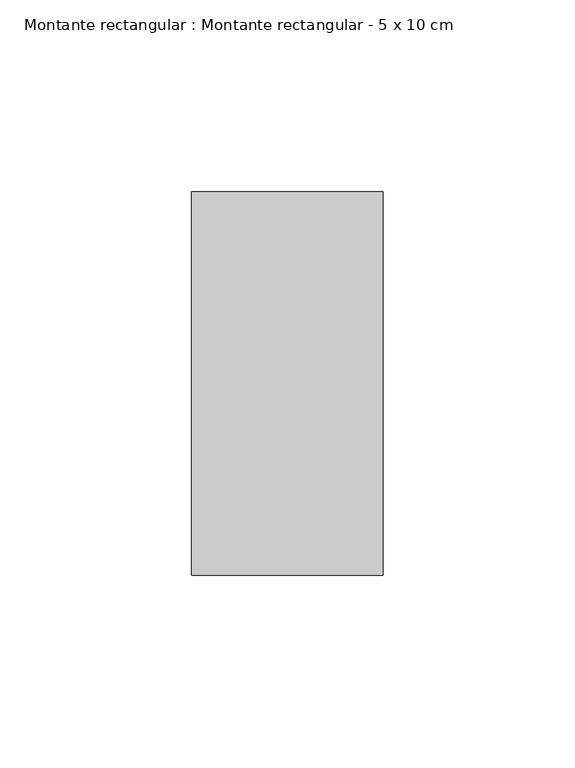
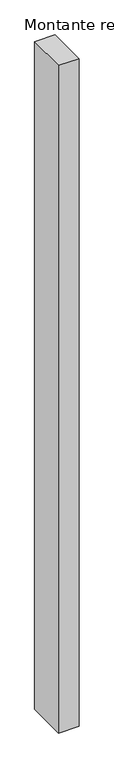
"""IFC4 building model written with IfcOpenShell, lengths in millimetres: member geometry, Montante rectangular : Montante rectangular - 5 x 10 cm."""

import ifcopenshell
import ifcopenshell.guid

model = None  # the IFC model being written
_history = None  # IfcOwnerHistory: only IFC2X3 demands one
_inside = {}  # id of a spatial element -> (the spatial element, [elements in it])
_under = {}  # id of a project, library or spatial element -> (it, [spatial elements below it])
_declared = {}  # id of a project -> (the project, [libraries it declares])
_typed = {}  # id of a type object -> (the type object, [elements of that type])
_made_of = {}  # id of a material, layer set ... -> (it, [elements and type objects made of it])


def new_model(schema):
    """Start an empty IFC model of exactly this schema.

    Asked for "IFC4X3", IfcOpenShell would pick the latest addendum, in which some entities
    have other attributes; the version numbers below select the first issue.
    IFC2X3 requires an IfcOwnerHistory on every rooted entity: one is made here for all.
    """
    global model, _history
    if schema == "IFC4X3":
        model = ifcopenshell.file(schema_version=(4, 3, 0, 0))
    else:
        model = ifcopenshell.file(schema=schema)
    _inside.clear()
    _under.clear()
    _declared.clear()
    _typed.clear()
    _made_of.clear()
    _history = None
    if model.schema == "IFC2X3":
        org = make("IfcOrganization", Name="unknown")
        user = make(
            "IfcPersonAndOrganization",
            ThePerson=make("IfcPerson", FamilyName="unknown"),
            TheOrganization=org,
        )
        app = make(
            "IfcApplication",
            ApplicationDeveloper=org,
            Version="unknown",
            ApplicationFullName="unknown",
            ApplicationIdentifier="unknown",
        )
        _history = make(
            "IfcOwnerHistory",
            OwningUser=user,
            OwningApplication=app,
            ChangeAction="ADDED",
            CreationDate=0,
        )
    return model


def make(cls, **values):
    """One entity of the class cls with the attributes given. An attribute that is None is left unset."""
    return model.create_entity(
        cls, **{name: value for name, value in values.items() if value is not None}
    )


def rooted(cls, **values):
    """An entity with a GlobalId (a new one), such as an element, a storey or a relation."""
    return make(cls, GlobalId=ifcopenshell.guid.new(), OwnerHistory=_history, **values)


def si_unit(unit_type, name, prefix=None):
    """IfcSIUnit, for example si_unit("LENGTHUNIT", "METRE", prefix="MILLI")."""
    return make("IfcSIUnit", UnitType=unit_type, Prefix=prefix, Name=name)


def assignment(units):
    """IfcUnitAssignment: the units of a project."""
    return None if units is None else make("IfcUnitAssignment", Units=units)


def point(xyz):
    """IfcCartesianPoint."""
    return None if xyz is None else make("IfcCartesianPoint", Coordinates=xyz)


def direction(xyz):
    """IfcDirection."""
    return None if xyz is None else make("IfcDirection", DirectionRatios=xyz)


def frame(location, z_axis=None, x_axis=None):
    """IfcAxis2Placement3D, a coordinate frame: its origin and axes. An axis left out is left unset."""
    return make(
        "IfcAxis2Placement3D",
        Location=point(location),
        Axis=direction(z_axis),
        RefDirection=direction(x_axis),
    )


def origin():
    """The frame at (0, 0, 0) with its axes left unset."""
    return frame((0.0, 0.0, 0.0))


def place(relative_to, where):
    """IfcLocalPlacement: puts the frame where relative to a parent placement (None: the world)."""
    return make(
        "IfcLocalPlacement", PlacementRelTo=relative_to, RelativePlacement=where
    )


def context(
    kind, dimensions, precision=None, world=None, true_north=None, identifier=None
):
    """IfcGeometricRepresentationContext, for example the 3D "Model" context."""
    return make(
        "IfcGeometricRepresentationContext",
        ContextIdentifier=identifier,
        ContextType=kind,
        CoordinateSpaceDimension=dimensions,
        Precision=precision,
        WorldCoordinateSystem=world,
        TrueNorth=true_north,
    )


def project(units=None, contexts=None):
    """IfcProject with its units and contexts."""
    return rooted(
        "IfcProject",
        Name="project",
        RepresentationContexts=contexts,
        UnitsInContext=assignment(units),
    )


def spatial(cls, under=None, at=None, **own):
    """A site, building, storey or space (cls), placed at a placement, below another one or the project."""
    s = rooted(cls, ObjectPlacement=at, **own)
    if under is not None:
        _under.setdefault(under.id(), (under, []))[1].append(s)
    return s


def polyline(points):
    """IfcPolyline through the points."""
    return make("IfcPolyline", Points=[point(p) for p in points])


def outline(outer, holes=None, kind="AREA"):
    """IfcArbitraryClosedProfileDef: a profile drawn as a closed curve; with holes, ...WithVoids."""
    if holes is None:
        return make("IfcArbitraryClosedProfileDef", ProfileType=kind, OuterCurve=outer)
    return make(
        "IfcArbitraryProfileDefWithVoids",
        ProfileType=kind,
        OuterCurve=outer,
        InnerCurves=holes,
    )


def extrude(swept, where, along, depth):
    """IfcExtrudedAreaSolid: the profile swept, set in the frame where, extruded along a direction by depth."""
    return make(
        "IfcExtrudedAreaSolid",
        SweptArea=swept,
        Position=where,
        ExtrudedDirection=direction(along),
        Depth=depth,
    )


def shape(context_of_items, identifier, shape_type, items):
    """IfcShapeRepresentation: the items that make up one representation, for example the "Body"."""
    return make(
        "IfcShapeRepresentation",
        ContextOfItems=context_of_items,
        RepresentationIdentifier=identifier,
        RepresentationType=shape_type,
        Items=items,
    )


def source(mapping_origin, context_of_items, identifier, shape_type, items):
    """IfcRepresentationMap: a shape defined once, which mapped items show again and again."""
    return make(
        "IfcRepresentationMap",
        MappingOrigin=mapping_origin,
        MappedRepresentation=shape(context_of_items, identifier, shape_type, items),
    )


def transform(
    local_origin,
    x_axis=None,
    y_axis=None,
    z_axis=None,
    scale=None,
    scale2=None,
    scale3=None,
    uniform=True,
):
    """IfcCartesianTransformationOperator3D, or its non-uniform kind. x_axis, y_axis, z_axis: its Axis1, 2, 3."""
    if uniform:
        return make(
            "IfcCartesianTransformationOperator3D",
            Axis1=direction(x_axis),
            Axis2=direction(y_axis),
            LocalOrigin=point(local_origin),
            Scale=scale,
            Axis3=direction(z_axis),
        )
    return make(
        "IfcCartesianTransformationOperator3DnonUniform",
        Axis1=direction(x_axis),
        Axis2=direction(y_axis),
        LocalOrigin=point(local_origin),
        Scale=scale,
        Axis3=direction(z_axis),
        Scale2=scale2,
        Scale3=scale3,
    )


def mapped(mapping_source, mapping_target):
    """IfcMappedItem: shows the shape of a source again, moved by a transform."""
    return make(
        "IfcMappedItem", MappingSource=mapping_source, MappingTarget=mapping_target
    )


def made_of(thing, what):
    """Note that an element or type object is made of a material, layer set ...; save() writes the relation."""
    if what is not None:
        _made_of.setdefault(what.id(), (what, []))[1].append(thing)
    return thing


def element(
    cls,
    number,
    at=None,
    inside=None,
    cuts=None,
    type_object=None,
    material=None,
    context=None,
    identifier="Body",
    shape_type=None,
    held_by="IfcProductDefinitionShape",
    body=None,
    shapes=None,
    **own,
):
    """One element of the class cls, such as IfcWall. Its Tag is "e" and its number.

    at: its placement. inside: the storey or other place that contains it. cuts: it is an
    opening in that element (IfcRelVoidsElement). A single representation is given by context,
    identifier, shape_type and body (its items); several are given by shapes. held_by: the class
    of the entity that holds the representations. save() writes the other relations.
    """
    e = rooted(cls, Tag="e%d" % number, ObjectPlacement=at, **own)
    if body is not None:
        shapes = [shape(context, identifier, shape_type, body)]
    if shapes is not None:
        e.Representation = make(held_by, Representations=shapes)
    if inside is not None:
        _inside.setdefault(inside.id(), (inside, []))[1].append(e)
    if cuts is not None:
        rooted(
            "IfcRelVoidsElement", RelatingBuildingElement=cuts, RelatedOpeningElement=e
        )
    if type_object is not None:
        _typed.setdefault(type_object.id(), (type_object, []))[1].append(e)
    return made_of(e, material)


def aggregate(whole, parts):
    """IfcRelAggregates: a whole, such as a stair, and the parts it consists of."""
    return rooted("IfcRelAggregates", RelatingObject=whole, RelatedObjects=parts)


def save(model, path):
    """Write the relations noted so far, then the file.

    IfcRelAggregates (storeys below a building ...), IfcRelContainedInSpatialStructure (elements
    in a storey), IfcRelDefinesByType, IfcRelAssociatesMaterial and IfcRelDeclares: one each for
    every whole, place, type object, material and project.
    """
    for whole, parts in _under.values():
        aggregate(whole, parts)
    for where, things in _inside.values():
        rooted(
            "IfcRelContainedInSpatialStructure",
            RelatedElements=things,
            RelatingStructure=where,
        )
    for kind, things in _typed.values():
        rooted("IfcRelDefinesByType", RelatedObjects=things, RelatingType=kind)
    for what, things in _made_of.values():
        rooted("IfcRelAssociatesMaterial", RelatedObjects=things, RelatingMaterial=what)
    for by, libraries in _declared.values():
        rooted("IfcRelDeclares", RelatingContext=by, RelatedDefinitions=libraries)
    model.write(path)


def montante_rectangular_montante_rectangular_5_x_10_cm_bea736d0(model_context):
    return source(origin(), model_context, "Body", "SweptSolid", [
        extrude(outline(polyline([(25.0, 50.0), (25.0, -50.0), (-25.0, -50.0), (-25.0, 50.0), (25.0, 50.0)])), frame((0.0, 0.0, -1716.3524328), z_axis=(0.0, 0.0, 1.0), x_axis=(1.0, 0.0, 0.0)), (0.0, 0.0, 1.0), 1716.3524328),
    ])


if __name__ == "__main__":
    model = new_model("IFC4")
    model_context = context("Model", 3, world=origin())
    ifc_project = project(units=[si_unit("LENGTHUNIT", "METRE", prefix="MILLI")], contexts=[model_context])
    site = spatial("IfcSite", under=ifc_project)
    building = spatial("IfcBuilding", under=site)
    placement = place(None, origin())
    montante_rectangular_montante_rectangular_5_x_10_cm_shape = montante_rectangular_montante_rectangular_5_x_10_cm_bea736d0(model_context)
    element("IfcMember", 1, ObjectType="Montante rectangular : Montante rectangular - 5 x 10 cm", at=placement, inside=building, context=model_context, shape_type="MappedRepresentation", body=[
        mapped(montante_rectangular_montante_rectangular_5_x_10_cm_shape, transform((0.0, 0.0, 0.0), x_axis=(1.0, 0.0, 0.0), y_axis=(0.0, 1.0, 0.0), z_axis=(0.0, 0.0, 1.0))),
    ])
    save(model, "model.ifc")
